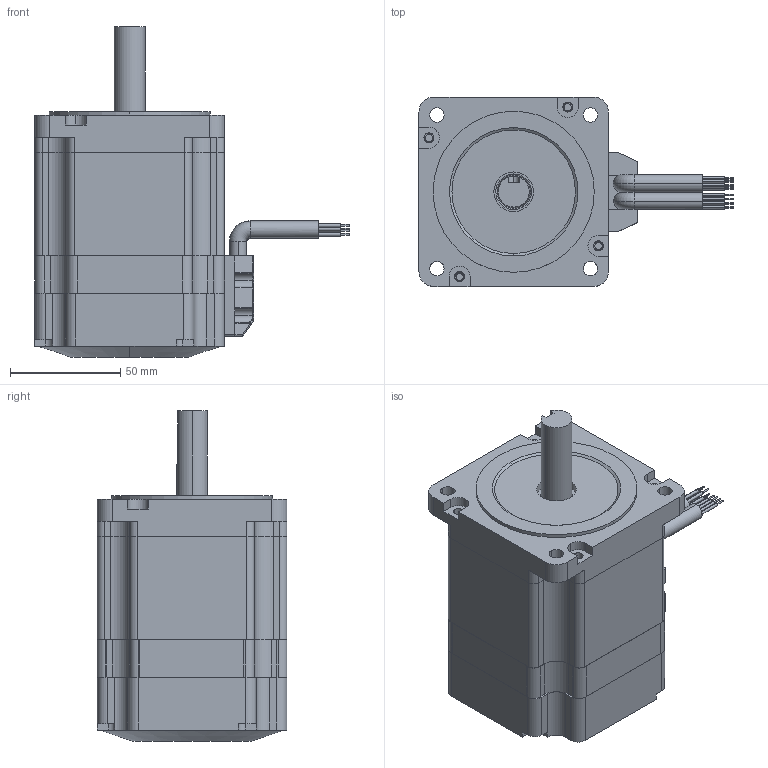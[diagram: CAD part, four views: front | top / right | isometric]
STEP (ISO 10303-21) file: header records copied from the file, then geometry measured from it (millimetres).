
FILE_DESCRIPTION (( 'STEP AP203' ), '1' );
FILE_NAME ('86BYGH250B1-08C(DCZN).STEP', '2024-09-14T08:53:38', ( 'Muse' ), ( 'Muse' ), 'SwSTEP 2.0', 'SolidWorks 2020', '' );
FILE_SCHEMA (( 'CONFIG_CONTROL_DESIGN' ));
Length unit declared in the file: millimetre
Products named in the file (12): 蛌赽郪璃; 35-27-0.5 疏菜_35-27-0.5 疏菜; 晤鎢ん郪璃; 86隅赽; 86揤盄輸  4邧謂; 蛌粣; 6202 粣創; 86BYGH250B1-08C(DCZN); 86 綴欶; 盄旰; 86綴裔; 86ヶ裔
Assembly tree (12 placements, depth 3):
  86BYGH250B1-08C(DCZN)
    86綴裔
    86隅赽
    86ヶ裔
    蛌赽郪璃
      蛌粣
      6202 粣創  x2
    35-27-0.5 疏菜_35-27-0.5 疏菜
    晤鎢ん郪璃
      86揤盄輸  4邧謂
      盄旰
      86 綴欶
Bounding box: 142.59 x 85.99 x 149.7 mm (x, y, z)
Volume: 404418.1 mm3; surface area: 169600.4 mm2
Topology: 11 solids, 11 shells, 1238 faces, 3778 edges, 2423 vertices
Faces by surface type: cylinder 616, plane 361, sphere 117, torus 116, bspline 18, cone 10
Entity records: 38998 total; most frequent: CARTESIAN_POINT 7816, DIRECTION 6491, ORIENTED_EDGE 6320, EDGE_CURVE 3160, AXIS2_PLACEMENT_3D 2501, VERTEX_POINT 2078, LINE 1489, VECTOR 1489
